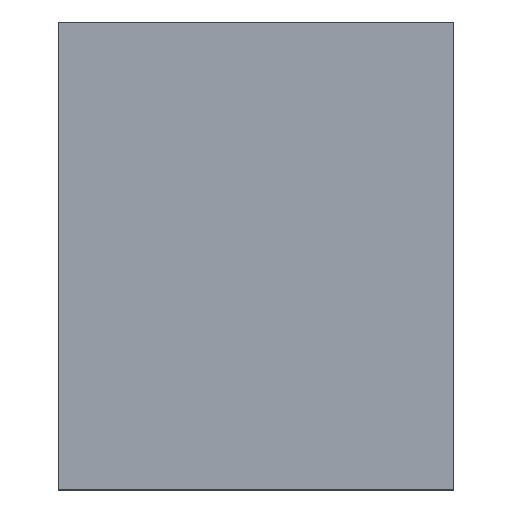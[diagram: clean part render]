
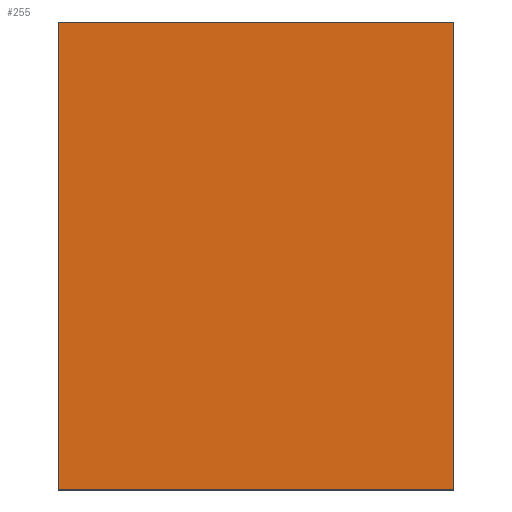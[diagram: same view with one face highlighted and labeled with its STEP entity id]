
A CAD part, top view. The second image highlights one B-rep face of the part: STEP entity #255.
In plain terms, the highlighted planar face has unit normal (0, 0, 1) as drawn and (0, -1, 0) by its records, which use the part's own axes.
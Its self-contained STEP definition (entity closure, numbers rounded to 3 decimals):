
#39 = EDGE_CURVE('',#40,#42,#44,.T.);
#40 = VERTEX_POINT('',#41);
#41 = CARTESIAN_POINT('',(50.9,-2.25,8.));
#42 = VERTEX_POINT('',#43);
#43 = CARTESIAN_POINT('',(50.9,-2.25,1.15));
#44 = SURFACE_CURVE('',#45,(#49,#61),.PCURVE_S1.);
#45 = LINE('',#46,#47);
#46 = CARTESIAN_POINT('',(50.9,-2.25,8.));
#47 = VECTOR('',#48,1.);
#48 = DIRECTION('',(-0.,0.,-1.));
#49 = PCURVE('',#50,#55);
#50 = PLANE('',#51);
#51 = AXIS2_PLACEMENT_3D('',#52,#53,#54);
#52 = CARTESIAN_POINT('',(50.9,-2.25,8.));
#53 = DIRECTION('',(-1.,-0.,0.));
#54 = DIRECTION('',(-0.,0.,-1.));
#55 = DEFINITIONAL_REPRESENTATION('',(#56),#60);
#56 = LINE('',#57,#58);
#57 = CARTESIAN_POINT('',(-0.,0.));
#58 = VECTOR('',#59,1.);
#59 = DIRECTION('',(1.,0.));
#60 = ( GEOMETRIC_REPRESENTATION_CONTEXT(2) 
PARAMETRIC_REPRESENTATION_CONTEXT() REPRESENTATION_CONTEXT('2D SPACE',''
  ) );
#61 = PCURVE('',#62,#67);
#62 = PLANE('',#63);
#63 = AXIS2_PLACEMENT_3D('',#64,#65,#66);
#64 = CARTESIAN_POINT('',(50.9,-2.25,8.));
#65 = DIRECTION('',(-0.,1.,0.));
#66 = DIRECTION('',(-0.,0.,-1.));
#67 = DEFINITIONAL_REPRESENTATION('',(#68),#72);
#68 = LINE('',#69,#70);
#69 = CARTESIAN_POINT('',(-0.,0.));
#70 = VECTOR('',#71,1.);
#71 = DIRECTION('',(1.,0.));
#72 = ( GEOMETRIC_REPRESENTATION_CONTEXT(2) 
PARAMETRIC_REPRESENTATION_CONTEXT() REPRESENTATION_CONTEXT('2D SPACE',''
  ) );
#90 = PLANE('',#91);
#91 = AXIS2_PLACEMENT_3D('',#92,#93,#94);
#92 = CARTESIAN_POINT('',(50.9,-2.25,8.));
#93 = DIRECTION('',(-0.,0.,-1.));
#94 = DIRECTION('',(-1.,-0.,0.));
#144 = PLANE('',#145);
#145 = AXIS2_PLACEMENT_3D('',#146,#147,#148);
#146 = CARTESIAN_POINT('',(50.9,-2.25,1.15));
#147 = DIRECTION('',(-0.,0.,-1.));
#148 = DIRECTION('',(-1.,-0.,0.));
#159 = EDGE_CURVE('',#160,#162,#164,.T.);
#160 = VERTEX_POINT('',#161);
#161 = CARTESIAN_POINT('',(45.1,-2.25,8.));
#162 = VERTEX_POINT('',#163);
#163 = CARTESIAN_POINT('',(45.1,-2.25,1.15));
#164 = SURFACE_CURVE('',#165,(#169,#181),.PCURVE_S1.);
#165 = LINE('',#166,#167);
#166 = CARTESIAN_POINT('',(45.1,-2.25,8.));
#167 = VECTOR('',#168,1.);
#168 = DIRECTION('',(-0.,0.,-1.));
#169 = PCURVE('',#170,#175);
#170 = PLANE('',#171);
#171 = AXIS2_PLACEMENT_3D('',#172,#173,#174);
#172 = CARTESIAN_POINT('',(45.1,-2.25,8.));
#173 = DIRECTION('',(-1.,-0.,0.));
#174 = DIRECTION('',(-0.,0.,-1.));
#175 = DEFINITIONAL_REPRESENTATION('',(#176),#180);
#176 = LINE('',#177,#178);
#177 = CARTESIAN_POINT('',(-0.,0.));
#178 = VECTOR('',#179,1.);
#179 = DIRECTION('',(1.,0.));
#180 = ( GEOMETRIC_REPRESENTATION_CONTEXT(2) 
PARAMETRIC_REPRESENTATION_CONTEXT() REPRESENTATION_CONTEXT('2D SPACE',''
  ) );
#181 = PCURVE('',#62,#182);
#182 = DEFINITIONAL_REPRESENTATION('',(#183),#187);
#183 = LINE('',#184,#185);
#184 = CARTESIAN_POINT('',(0.,5.8));
#185 = VECTOR('',#186,1.);
#186 = DIRECTION('',(1.,0.));
#187 = ( GEOMETRIC_REPRESENTATION_CONTEXT(2) 
PARAMETRIC_REPRESENTATION_CONTEXT() REPRESENTATION_CONTEXT('2D SPACE',''
  ) );
#255 = ADVANCED_FACE('',(#256),#62,.F.);
#256 = FACE_BOUND('',#257,.F.);
#257 = EDGE_LOOP('',(#258,#279,#280,#301));
#258 = ORIENTED_EDGE('',*,*,#259,.F.);
#259 = EDGE_CURVE('',#40,#160,#260,.T.);
#260 = SURFACE_CURVE('',#261,(#265,#272),.PCURVE_S1.);
#261 = LINE('',#262,#263);
#262 = CARTESIAN_POINT('',(50.9,-2.25,8.));
#263 = VECTOR('',#264,1.);
#264 = DIRECTION('',(-1.,-0.,0.));
#265 = PCURVE('',#62,#266);
#266 = DEFINITIONAL_REPRESENTATION('',(#267),#271);
#267 = LINE('',#268,#269);
#268 = CARTESIAN_POINT('',(-0.,0.));
#269 = VECTOR('',#270,1.);
#270 = DIRECTION('',(0.,1.));
#271 = ( GEOMETRIC_REPRESENTATION_CONTEXT(2) 
PARAMETRIC_REPRESENTATION_CONTEXT() REPRESENTATION_CONTEXT('2D SPACE',''
  ) );
#272 = PCURVE('',#90,#273);
#273 = DEFINITIONAL_REPRESENTATION('',(#274),#278);
#274 = LINE('',#275,#276);
#275 = CARTESIAN_POINT('',(0.,0.));
#276 = VECTOR('',#277,1.);
#277 = DIRECTION('',(1.,0.));
#278 = ( GEOMETRIC_REPRESENTATION_CONTEXT(2) 
PARAMETRIC_REPRESENTATION_CONTEXT() REPRESENTATION_CONTEXT('2D SPACE',''
  ) );
#279 = ORIENTED_EDGE('',*,*,#39,.T.);
#280 = ORIENTED_EDGE('',*,*,#281,.T.);
#281 = EDGE_CURVE('',#42,#162,#282,.T.);
#282 = SURFACE_CURVE('',#283,(#287,#294),.PCURVE_S1.);
#283 = LINE('',#284,#285);
#284 = CARTESIAN_POINT('',(50.9,-2.25,1.15));
#285 = VECTOR('',#286,1.);
#286 = DIRECTION('',(-1.,-0.,0.));
#287 = PCURVE('',#62,#288);
#288 = DEFINITIONAL_REPRESENTATION('',(#289),#293);
#289 = LINE('',#290,#291);
#290 = CARTESIAN_POINT('',(6.85,0.));
#291 = VECTOR('',#292,1.);
#292 = DIRECTION('',(0.,1.));
#293 = ( GEOMETRIC_REPRESENTATION_CONTEXT(2) 
PARAMETRIC_REPRESENTATION_CONTEXT() REPRESENTATION_CONTEXT('2D SPACE',''
  ) );
#294 = PCURVE('',#144,#295);
#295 = DEFINITIONAL_REPRESENTATION('',(#296),#300);
#296 = LINE('',#297,#298);
#297 = CARTESIAN_POINT('',(0.,0.));
#298 = VECTOR('',#299,1.);
#299 = DIRECTION('',(1.,0.));
#300 = ( GEOMETRIC_REPRESENTATION_CONTEXT(2) 
PARAMETRIC_REPRESENTATION_CONTEXT() REPRESENTATION_CONTEXT('2D SPACE',''
  ) );
#301 = ORIENTED_EDGE('',*,*,#159,.F.);
